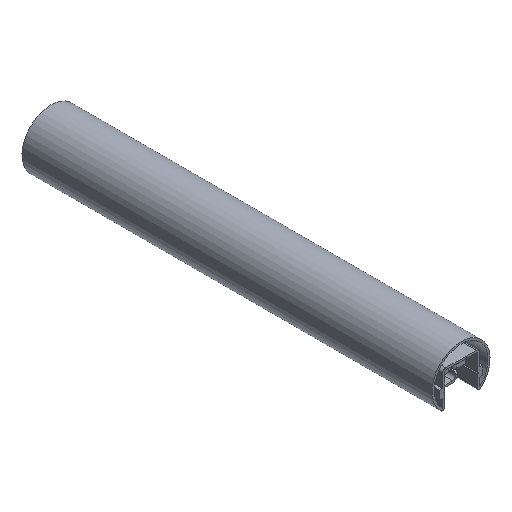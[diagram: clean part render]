
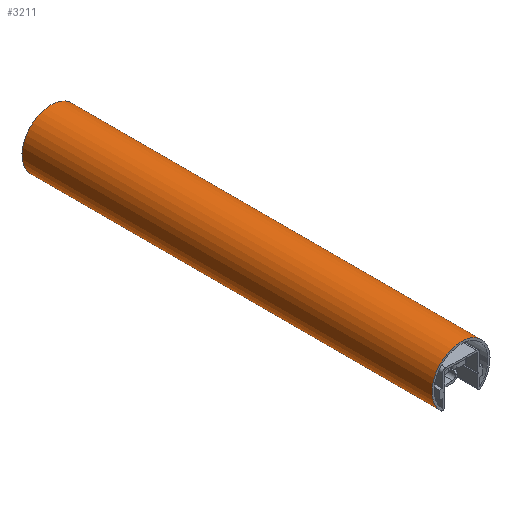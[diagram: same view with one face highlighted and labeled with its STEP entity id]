
A CAD part, isometric view. The second image highlights one B-rep face of the part: STEP entity #3211.
In plain terms, the highlighted cylindrical face has radius 21.2 mm (diameter 42.4 mm), a partial arc.
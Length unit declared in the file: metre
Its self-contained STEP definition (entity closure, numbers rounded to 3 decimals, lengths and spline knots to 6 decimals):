
#352=LINE('',#5780,#654);
#372=LINE('',#5832,#674);
#654=VECTOR('',#4164,1.);
#674=VECTOR('',#4210,1.);
#1369=ORIENTED_EDGE('',*,*,#1963,.T.);
#1370=ORIENTED_EDGE('',*,*,#2009,.F.);
#1371=ORIENTED_EDGE('',*,*,#1988,.F.);
#1372=ORIENTED_EDGE('',*,*,#2010,.T.);
#1963=EDGE_CURVE('',#2330,#2329,#352,.T.);
#1988=EDGE_CURVE('',#2349,#2350,#372,.T.);
#2009=EDGE_CURVE('',#2350,#2329,#2547,.T.);
#2010=EDGE_CURVE('',#2349,#2330,#2548,.T.);
#2329=VERTEX_POINT('',#5779);
#2330=VERTEX_POINT('',#5781);
#2349=VERTEX_POINT('',#5833);
#2350=VERTEX_POINT('',#5834);
#2547=CIRCLE('',#3509,0.0212);
#2548=CIRCLE('',#3510,0.0212);
#2726=EDGE_LOOP('',(#1369,#1370,#1371,#1372));
#2940=FACE_BOUND('',#2726,.T.);
#3067=CYLINDRICAL_SURFACE('',#3508,0.0212);
#3211=ADVANCED_FACE('',(#2940),#3067,.T.);
#3508=AXIS2_PLACEMENT_3D('',#5873,#4251,#4252);
#3509=AXIS2_PLACEMENT_3D('',#5874,#4253,#4254);
#3510=AXIS2_PLACEMENT_3D('',#5875,#4255,#4256);
#4164=DIRECTION('',(0.,1.,0.));
#4210=DIRECTION('',(0.,1.,0.));
#4251=DIRECTION('',(0.,1.,0.));
#4252=DIRECTION('',(0.,0.,1.));
#4253=DIRECTION('',(0.,1.,0.));
#4254=DIRECTION('',(0.,0.,1.));
#4255=DIRECTION('',(0.,1.,0.));
#4256=DIRECTION('',(0.,0.,1.));
#5779=CARTESIAN_POINT('',(-0.014582,0.25,0.015389));
#5780=CARTESIAN_POINT('',(-0.014582,-0.05,0.015389));
#5781=CARTESIAN_POINT('',(-0.014582,-0.05,0.015389));
#5832=CARTESIAN_POINT('',(0.014582,-0.05,0.015389));
#5833=CARTESIAN_POINT('',(0.014582,-0.05,0.015389));
#5834=CARTESIAN_POINT('',(0.014582,0.25,0.015389));
#5873=CARTESIAN_POINT('',(0.,-0.05,0.));
#5874=CARTESIAN_POINT('',(0.,0.25,0.));
#5875=CARTESIAN_POINT('',(0.,-0.05,0.));
